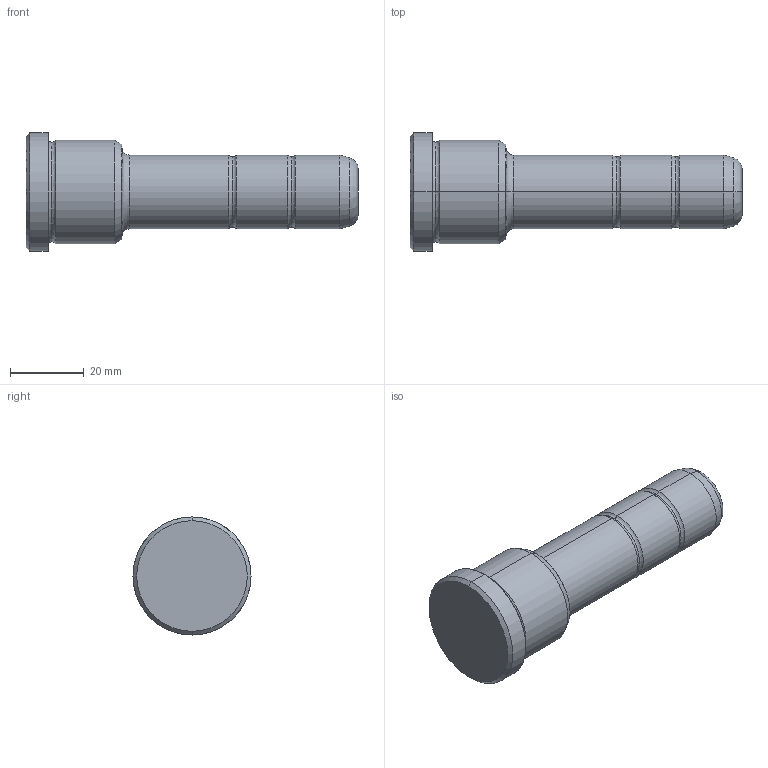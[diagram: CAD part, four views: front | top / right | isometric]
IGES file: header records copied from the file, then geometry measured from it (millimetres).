
Start section: START RECORD GO HERE.
Global section: file name: 351-20X26X90.igs; native system: DASSAULT SYSTEMES CATIA V5 R20 - www.3ds.com; preprocessor: CATIA Version 5 Release 20 ; author: Utente; organization: NB04-ASUS; date: 20210827.143207; units: millimetre
Bounding box: 90 x 32 x 32 mm (x, y, z)
Surface area: 7726.3 mm2 (no closed solid volume)
Topology: 0 solids, 0 shells, 36 faces, 204 edges, 204 vertices
Faces by surface type: revolution 32, plane 4
